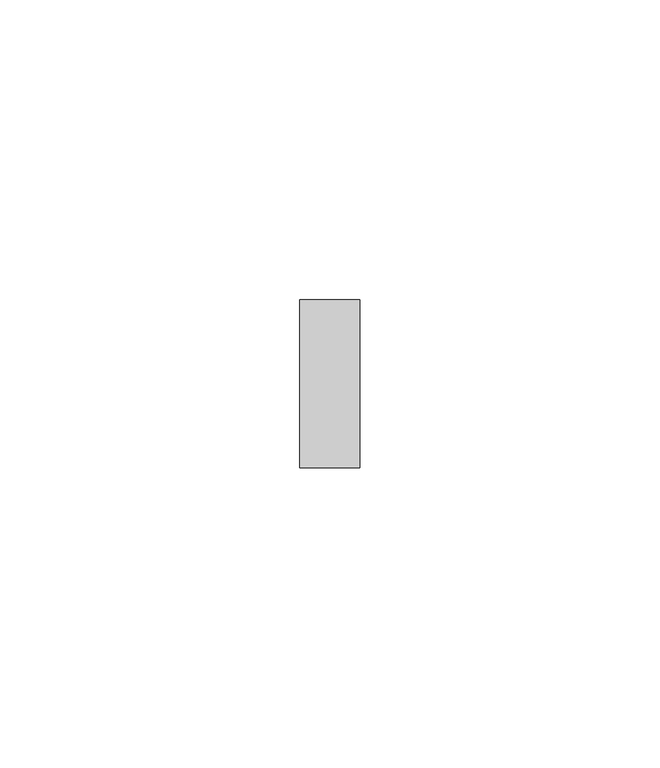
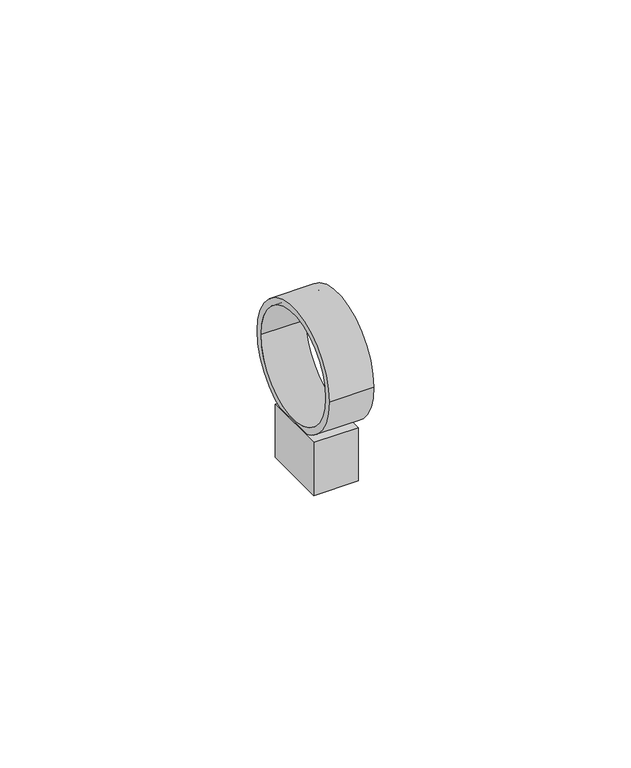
"""IFC4 building model written with IfcOpenShell, lengths in millimetres: cable carrier fitting geometry, Хомутный держатель со стяжкой CFF1 16-32 мм IEK : Хомутный держатель со стяжкой CFF1 16-32 мм IEK."""

from ifc_helpers import new_model, si_unit, point, frame, origin, origin_2d, place, context, project, spatial, polyline, circle_curve, trimmed, segment, composite_curve, outline, extrude, source, transform, mapped, element, save


def cable_carrier_fitting_ebcfe72a(model_context):
    return source(origin(), model_context, "Body", "SweptSolid", [
        extrude(outline(polyline([(5.0, 6.9195258), (5.0, -8.0240345), (-5.0, -8.0240345), (-5.0, 6.9195258), (5.0, 6.9195258)])), frame((0.0, 0.0, -25.78125), z_axis=(0.0, 0.0, 1.0), x_axis=(1.0, 0.0, 0.0)), (0.0, 0.0, 1.0), 12.6113362),
        extrude(outline(composite_curve([segment(trimmed(circle_curve(origin_2d(), 14.0), [point((-14.0, 0.0))], [point((14.0, 0.0))], False, "CARTESIAN"), True, "CONTINUOUS"), segment(trimmed(circle_curve(origin_2d(), 14.0), [point((14.0, 0.0))], [point((-14.0, 0.0))], False, "CARTESIAN"), True, "CONTINUOUS")], self_intersect=False), holes=[composite_curve([segment(trimmed(circle_curve(origin_2d(), 12.5), [point((-12.5, 0.0))], [point((12.5, 0.0))], True, "CARTESIAN"), True, "CONTINUOUS"), segment(trimmed(circle_curve(origin_2d(), 12.5), [point((12.5, 0.0))], [point((-12.5, 0.0))], True, "CARTESIAN"), True, "CONTINUOUS")], self_intersect=False)]), frame((-5.0, 0.0, 0.0), z_axis=(1.0, 0.0, 0.0), x_axis=(0.0, 1.0, 0.0)), (0.0, 0.0, 1.0), 10.0),
    ])


if __name__ == "__main__":
    model = new_model("IFC4")
    model_context = context("Model", 3, world=origin())
    ifc_project = project(units=[si_unit("LENGTHUNIT", "METRE", prefix="MILLI")], contexts=[model_context])
    site = spatial("IfcSite", under=ifc_project)
    building = spatial("IfcBuilding", under=site)
    placement = place(None, origin())
    cable_carrier_fitting_shape = cable_carrier_fitting_ebcfe72a(model_context)
    element("IfcCableCarrierFitting", 1, ObjectType="Хомутный держатель со стяжкой CFF1 16-32 мм IEK : Хомутный держатель со стяжкой CFF1 16-32 мм IEK", at=placement, inside=building, context=model_context, shape_type="MappedRepresentation", body=[
        mapped(cable_carrier_fitting_shape, transform((0.0, 0.0, 0.0), x_axis=(1.0, 0.0, 0.0), y_axis=(0.0, 1.0, 0.0), z_axis=(0.0, 0.0, 1.0))),
    ])
    save(model, "model.ifc")
